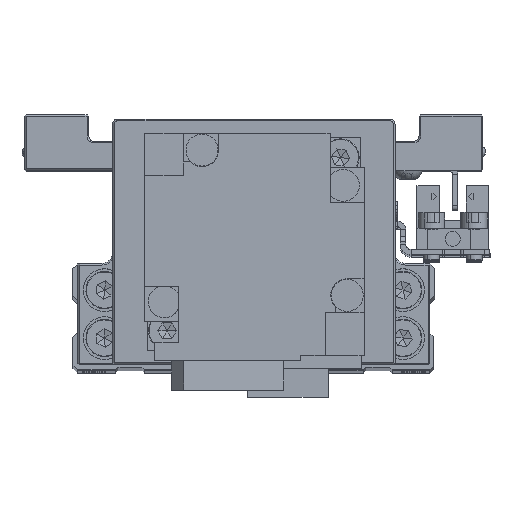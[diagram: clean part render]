
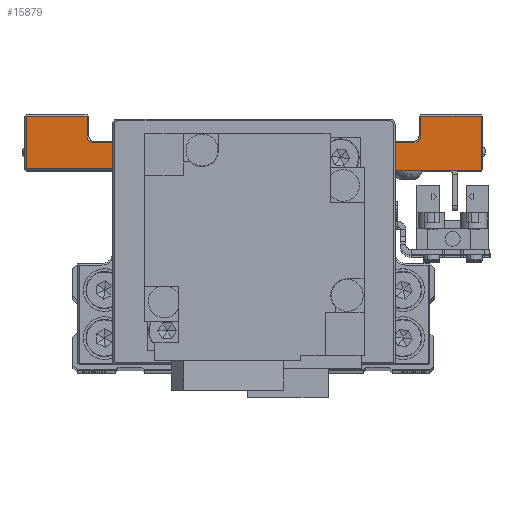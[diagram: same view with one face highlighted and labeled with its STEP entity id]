
A CAD part, top view. The second image highlights one B-rep face of the part: STEP entity #15879.
In plain terms, the highlighted planar face has unit normal (0, 0, 1) as drawn and (1, 0, 0) by its records, which use the part's own axes.
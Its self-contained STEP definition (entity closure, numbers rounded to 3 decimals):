
#157 = VERTEX_POINT ( 'NONE', #10458 ) ;
#587 = CARTESIAN_POINT ( 'NONE',  ( 45., 7.5, 42.7 ) ) ;
#801 = CARTESIAN_POINT ( 'NONE',  ( 45., 7.5, 43. ) ) ;
#1499 = ORIENTED_EDGE ( 'NONE', *, *, #21106, .T. ) ;
#1623 = DIRECTION ( 'NONE',  ( -1., 0., 0. ) ) ;
#1685 = AXIS2_PLACEMENT_3D ( 'NONE', #25778, #1623, #12374 ) ;
#1722 = AXIS2_PLACEMENT_3D ( 'NONE', #29992, #5820, #16595 ) ;
#1755 = EDGE_CURVE ( 'NONE', #19550, #12468, #28083, .T. ) ;
#1936 = VECTOR ( 'NONE', #14681, 1000. ) ;
#1968 = EDGE_CURVE ( 'NONE', #17586, #33176, #5135, .T. ) ;
#2300 = VECTOR ( 'NONE', #34008, 1000. ) ;
#3159 = VECTOR ( 'NONE', #26658, 1000. ) ;
#3187 = DIRECTION ( 'NONE',  ( 0., 0., -1. ) ) ;
#3213 = CARTESIAN_POINT ( 'NONE',  ( 45., 12.7, 30. ) ) ;
#3230 = CARTESIAN_POINT ( 'NONE',  ( 45., 17.7, -42.7 ) ) ;
#3638 = VECTOR ( 'NONE', #11332, 1000. ) ;
#3869 = ORIENTED_EDGE ( 'NONE', *, *, #1968, .T. ) ;
#3923 = CARTESIAN_POINT ( 'NONE',  ( 45., 7.5, 19.7 ) ) ;
#3983 = DIRECTION ( 'NONE',  ( 0., 1., 0. ) ) ;
#4122 = CARTESIAN_POINT ( 'NONE',  ( 45., 7.5, -42.7 ) ) ;
#4291 = DIRECTION ( 'NONE',  ( 0., 0., 1. ) ) ;
#4712 = DIRECTION ( 'NONE',  ( 0., -1., 0. ) ) ;
#5029 = VERTEX_POINT ( 'NONE', #4122 ) ;
#5135 = LINE ( 'NONE', #15903, #3159 ) ;
#5510 = EDGE_CURVE ( 'NONE', #10346, #157, #16880, .T. ) ;
#5820 = DIRECTION ( 'NONE',  ( -1., 0., 0. ) ) ;
#6073 = ORIENTED_EDGE ( 'NONE', *, *, #11060, .T. ) ;
#6124 = VECTOR ( 'NONE', #3187, 1000. ) ;
#6155 = VECTOR ( 'NONE', #30476, 1000. ) ;
#6844 = CARTESIAN_POINT ( 'NONE',  ( 45., 12.7, 30. ) ) ;
#7506 = VECTOR ( 'NONE', #4291, 1000. ) ;
#8242 = ORIENTED_EDGE ( 'NONE', *, *, #16109, .T. ) ;
#8414 = EDGE_CURVE ( 'NONE', #17612, #24510, #34696, .T. ) ;
#8482 = FACE_OUTER_BOUND ( 'NONE', #16317, .T. ) ;
#8811 = CARTESIAN_POINT ( 'NONE',  ( 45., 14., -30. ) ) ;
#8868 = VERTEX_POINT ( 'NONE', #11900 ) ;
#8967 = LINE ( 'NONE', #19738, #6155 ) ;
#9014 = LINE ( 'NONE', #19786, #22330 ) ;
#9796 = CARTESIAN_POINT ( 'NONE',  ( 45., 12.7, -30. ) ) ;
#10215 = ORIENTED_EDGE ( 'NONE', *, *, #28407, .T. ) ;
#10346 = VERTEX_POINT ( 'NONE', #6844 ) ;
#10458 = CARTESIAN_POINT ( 'NONE',  ( 45., 14., 31.3 ) ) ;
#11060 = EDGE_CURVE ( 'NONE', #27025, #19550, #9014, .T. ) ;
#11332 = DIRECTION ( 'NONE',  ( 0., -1., 0. ) ) ;
#11537 = DIRECTION ( 'NONE',  ( 0., 0., -1. ) ) ;
#11900 = CARTESIAN_POINT ( 'NONE',  ( 45., -8.2, -19.7 ) ) ;
#12277 = VECTOR ( 'NONE', #3983, 1000. ) ;
#12374 = DIRECTION ( 'NONE',  ( 0., 0., 1. ) ) ;
#12468 = VERTEX_POINT ( 'NONE', #13297 ) ;
#12516 = LINE ( 'NONE', #23284, #2300 ) ;
#12558 = ORIENTED_EDGE ( 'NONE', *, *, #31074, .T. ) ;
#13297 = CARTESIAN_POINT ( 'NONE',  ( 45., -8.2, 19.7 ) ) ;
#13984 = DIRECTION ( 'NONE',  ( 0., 0., 1. ) ) ;
#14681 = DIRECTION ( 'NONE',  ( 0., -1., 0. ) ) ;
#14922 = CARTESIAN_POINT ( 'NONE',  ( 45., 7.8, 19.7 ) ) ;
#14955 = EDGE_CURVE ( 'NONE', #157, #17586, #8967, .T. ) ;
#15152 = EDGE_CURVE ( 'NONE', #30382, #17612, #18129, .T. ) ;
#15266 = ORIENTED_EDGE ( 'NONE', *, *, #33466, .T. ) ;
#15879 = ADVANCED_FACE ( 'NONE', ( #8482 ), #19247, .F. ) ;
#15903 = CARTESIAN_POINT ( 'NONE',  ( 45., 17.7, -20. ) ) ;
#16109 = EDGE_CURVE ( 'NONE', #5029, #20627, #12516, .T. ) ;
#16317 = EDGE_LOOP ( 'NONE', ( #30421, #12558, #8242, #33188, #34565, #33510, #10215, #27459, #17568, #3869, #15266, #6073, #32439, #1499 ) ) ;
#16595 = DIRECTION ( 'NONE',  ( 0., 0., 1. ) ) ;
#16601 = LINE ( 'NONE', #27355, #6124 ) ;
#16880 = CIRCLE ( 'NONE', #1685, 1.3 ) ;
#17399 = LINE ( 'NONE', #28145, #12277 ) ;
#17568 = ORIENTED_EDGE ( 'NONE', *, *, #14955, .T. ) ;
#17586 = VERTEX_POINT ( 'NONE', #29792 ) ;
#17612 = VERTEX_POINT ( 'NONE', #32602 ) ;
#17708 = LINE ( 'NONE', #28452, #7506 ) ;
#18129 = LINE ( 'NONE', #28877, #29844 ) ;
#18320 = CARTESIAN_POINT ( 'NONE',  ( 45., 17.7, -31.3 ) ) ;
#19217 = CARTESIAN_POINT ( 'NONE',  ( 45., 7.8, 42.7 ) ) ;
#19247 = PLANE ( 'NONE',  #1722 ) ;
#19519 = AXIS2_PLACEMENT_3D ( 'NONE', #8811, #19588, #30330 ) ;
#19550 = VERTEX_POINT ( 'NONE', #14922 ) ;
#19588 = DIRECTION ( 'NONE',  ( -1., 0., 0. ) ) ;
#19738 = CARTESIAN_POINT ( 'NONE',  ( 45., 7.5, 31.3 ) ) ;
#19786 = CARTESIAN_POINT ( 'NONE',  ( 45., 7.8, 20. ) ) ;
#20358 = CARTESIAN_POINT ( 'NONE',  ( 45., 7.5, -19.7 ) ) ;
#20627 = VERTEX_POINT ( 'NONE', #3230 ) ;
#21106 = EDGE_CURVE ( 'NONE', #12468, #8868, #16601, .T. ) ;
#21647 = EDGE_CURVE ( 'NONE', #8868, #24959, #17399, .T. ) ;
#22330 = VECTOR ( 'NONE', #30523, 1000. ) ;
#23284 = CARTESIAN_POINT ( 'NONE',  ( 45., 7.5, -42.7 ) ) ;
#23306 = VECTOR ( 'NONE', #13984, 1000. ) ;
#24510 = VERTEX_POINT ( 'NONE', #9796 ) ;
#24744 = LINE ( 'NONE', #587, #3638 ) ;
#24959 = VERTEX_POINT ( 'NONE', #20358 ) ;
#24962 = LINE ( 'NONE', #801, #31659 ) ;
#24992 = CARTESIAN_POINT ( 'NONE',  ( 45., 17.7, 42.7 ) ) ;
#25778 = CARTESIAN_POINT ( 'NONE',  ( 45., 14., 30. ) ) ;
#26658 = DIRECTION ( 'NONE',  ( 0., 0., 1. ) ) ;
#27025 = VERTEX_POINT ( 'NONE', #19217 ) ;
#27355 = CARTESIAN_POINT ( 'NONE',  ( 45., -8.2, -20. ) ) ;
#27378 = LINE ( 'NONE', #3213, #23306 ) ;
#27459 = ORIENTED_EDGE ( 'NONE', *, *, #5510, .T. ) ;
#28083 = LINE ( 'NONE', #3923, #1936 ) ;
#28129 = EDGE_CURVE ( 'NONE', #20627, #30382, #17708, .T. ) ;
#28145 = CARTESIAN_POINT ( 'NONE',  ( 45., 7.5, -19.7 ) ) ;
#28407 = EDGE_CURVE ( 'NONE', #24510, #10346, #27378, .T. ) ;
#28452 = CARTESIAN_POINT ( 'NONE',  ( 45., 17.7, -20. ) ) ;
#28877 = CARTESIAN_POINT ( 'NONE',  ( 45., 7.5, -31.3 ) ) ;
#29792 = CARTESIAN_POINT ( 'NONE',  ( 45., 17.7, 31.3 ) ) ;
#29844 = VECTOR ( 'NONE', #4712, 1000. ) ;
#29992 = CARTESIAN_POINT ( 'NONE',  ( 45., 7.5, -20. ) ) ;
#30330 = DIRECTION ( 'NONE',  ( 0., 0., 1. ) ) ;
#30382 = VERTEX_POINT ( 'NONE', #18320 ) ;
#30421 = ORIENTED_EDGE ( 'NONE', *, *, #21647, .T. ) ;
#30476 = DIRECTION ( 'NONE',  ( 0., 1., 0. ) ) ;
#30523 = DIRECTION ( 'NONE',  ( 0., 0., -1. ) ) ;
#31074 = EDGE_CURVE ( 'NONE', #24959, #5029, #24962, .T. ) ;
#31659 = VECTOR ( 'NONE', #11537, 1000. ) ;
#32439 = ORIENTED_EDGE ( 'NONE', *, *, #1755, .T. ) ;
#32602 = CARTESIAN_POINT ( 'NONE',  ( 45., 14., -31.3 ) ) ;
#33176 = VERTEX_POINT ( 'NONE', #24992 ) ;
#33188 = ORIENTED_EDGE ( 'NONE', *, *, #28129, .T. ) ;
#33466 = EDGE_CURVE ( 'NONE', #33176, #27025, #24744, .T. ) ;
#33510 = ORIENTED_EDGE ( 'NONE', *, *, #8414, .T. ) ;
#34008 = DIRECTION ( 'NONE',  ( 0., 1., 0. ) ) ;
#34565 = ORIENTED_EDGE ( 'NONE', *, *, #15152, .T. ) ;
#34696 = CIRCLE ( 'NONE', #19519, 1.3 ) ;
